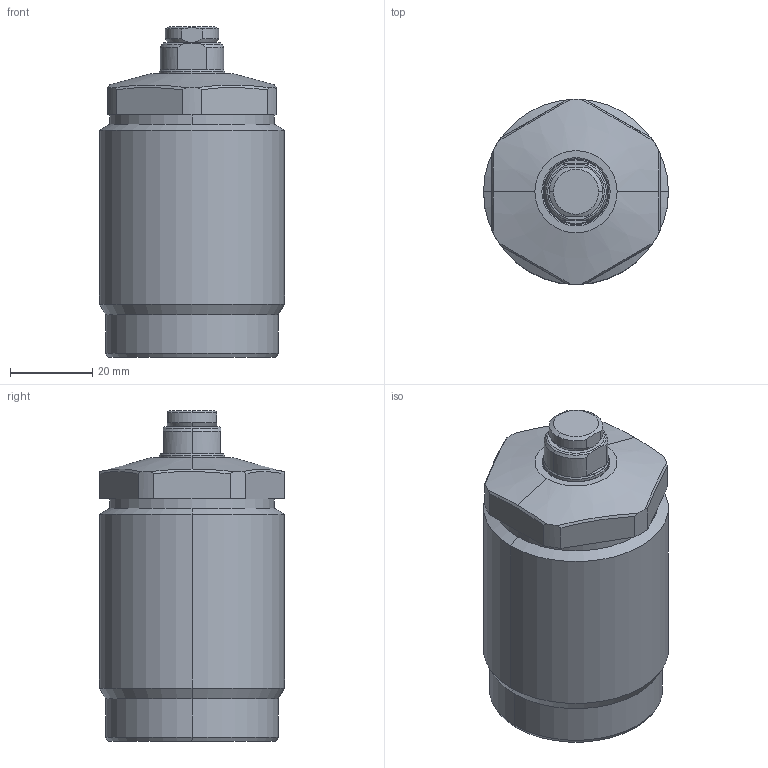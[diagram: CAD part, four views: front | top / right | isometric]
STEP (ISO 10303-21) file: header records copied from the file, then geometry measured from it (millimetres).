
FILE_DESCRIPTION (( 'STEP AP214' ), '1' );
FILE_NAME ('TW09-M453.STEP', '2020-08-06T05:09:19', ( '' ), ( '' ), 'SwSTEP 2.0', 'SolidWorks 2019', '' );
FILE_SCHEMA (( 'AUTOMOTIVE_DESIGN' ));
Length unit declared in the file: millimetre
Products named in the file (4): M45-PAD; TW09-M453; TW09-453-BODY; M45-PLUNGER
Assembly tree (3 placements, depth 2):
  TW09-M453
    TW09-453-BODY
    M45-PLUNGER
    M45-PAD
Bounding box: 45 x 45 x 80.5 mm (x, y, z)
Volume: 101322.8 mm3; surface area: 17741.2 mm2
Topology: 3 solids, 3 shells, 93 faces, 217 edges, 133 vertices
Faces by surface type: cone 34, cylinder 29, plane 24, bspline 6
Entity records: 3639 total; most frequent: CARTESIAN_POINT 1337, DIRECTION 449, ORIENTED_EDGE 430, EDGE_CURVE 215, AXIS2_PLACEMENT_3D 183, VERTEX_POINT 133, EDGE_LOOP 98, ADVANCED_FACE 93
